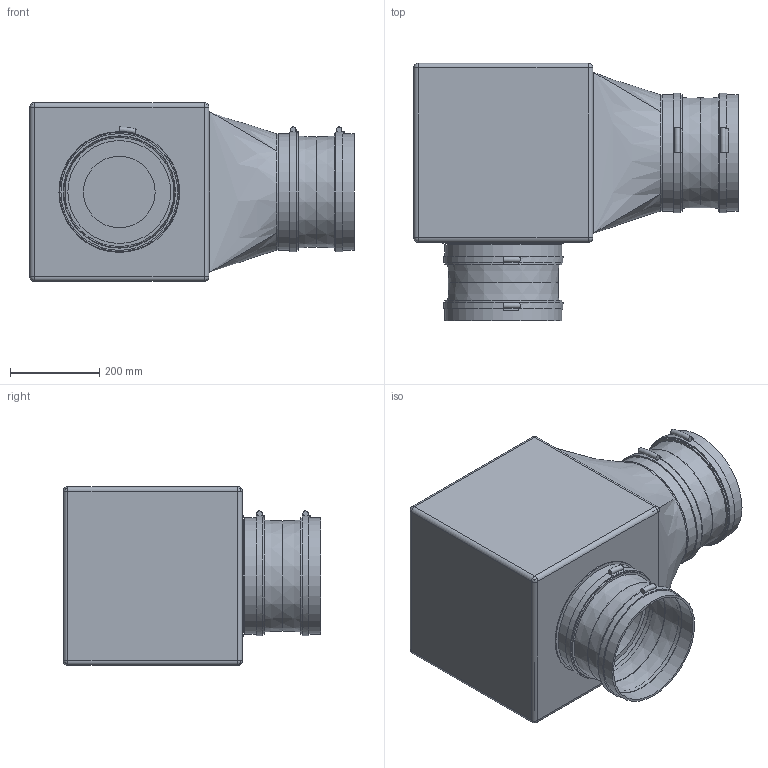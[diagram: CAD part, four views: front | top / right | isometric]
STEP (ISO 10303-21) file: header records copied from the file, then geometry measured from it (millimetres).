
FILE_DESCRIPTION(/* description */ (''),/* implementation_level */ '2;1');
FILE_NAME(/* name */ 'Z:\Output\GBW EC 250_Radial-05807-001.stp',/* time_stamp */ '2017-05-09T00:01:23+02:00',/* author */ ('jayeshpanchal'),/* organization */ (''),/* preprocessor_version */ 'ST-DEVELOPER v16.5',/* originating_system */ 'Autodesk Inventor 2017',/* authorisation */ '');
FILE_SCHEMA (('AUTOMOTIVE_DESIGN { 1 0 10303 214 3 1 1 }'));
Length unit declared in the file: millimetre
Products named in the file (1): GB-2
Bounding box: 725 x 575 x 400 mm (x, y, z)
Volume: 6110321.4 mm3; surface area: 2855098.5 mm2
Topology: 9 solids, 10 shells, 139 faces, 266 edges, 160 vertices
Faces by surface type: plane 55, cylinder 48, bspline 16, cone 8, sphere 8, torus 4
Full cylindrical faces by diameter (mm): 160 x1, 230 x1, 240 x1, 250 x2, 251 x8, 260 x2, 261 x8, 267 x4, 270 x1
Entity records: 4023 total; most frequent: CARTESIAN_POINT 1292, DIRECTION 584, ORIENTED_EDGE 466, AXIS2_PLACEMENT_3D 245, EDGE_CURVE 227, EDGE_LOOP 206, VERTEX_POINT 157, FACE_OUTER_BOUND 139
